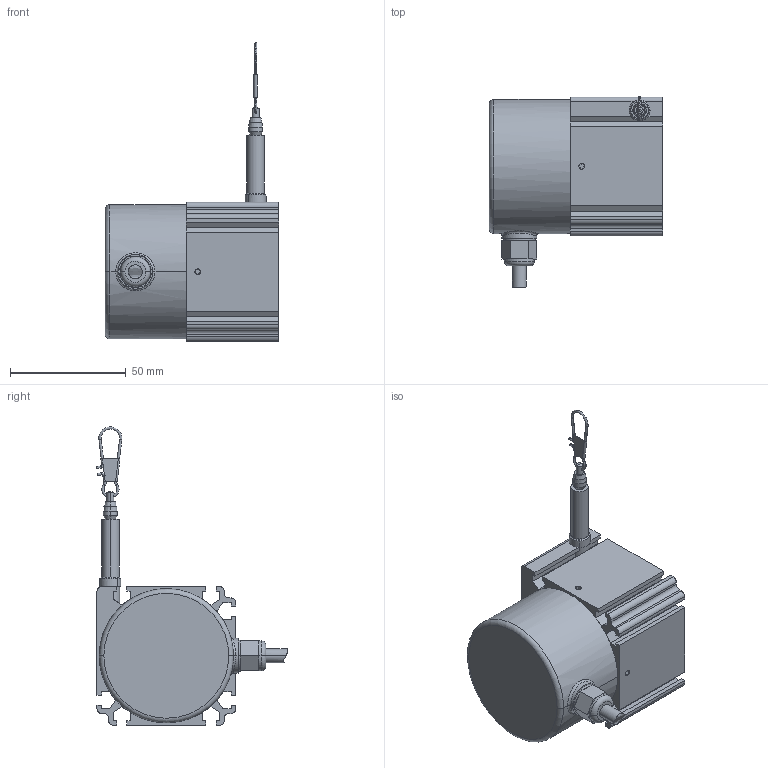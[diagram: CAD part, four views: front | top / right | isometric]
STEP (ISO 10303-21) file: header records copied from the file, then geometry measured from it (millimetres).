
FILE_DESCRIPTION((''),'2;1');
FILE_NAME('','2007-03-21T',(''),(''),'PRO/ENGINEER BY PARAMETRIC TECHNOLOGY CORPORATION, 2003250','PRO/ENGINEER BY PARAMETRIC TECHNOLOGY CORPORATION, 2003250','');
FILE_SCHEMA(('CONFIG_CONTROL_DESIGN'));
Length unit declared in the file: millimetre
Bounding box: 75 x 82.72 x 128.99 mm (x, y, z)
Volume: 147404.2 mm3; surface area: 42666.4 mm2
Topology: 1 solids, 2 shells, 290 faces, 741 edges, 464 vertices
Faces by surface type: plane 169, cylinder 72, cone 24, torus 20, bspline 2, sphere 2, extrusion 1
Entity records: 9275 total; most frequent: CARTESIAN_POINT 2106, DIRECTION 1534, ORIENTED_EDGE 1466, EDGE_CURVE 733, AXIS2_PLACEMENT_3D 544, VERTEX_POINT 464, VECTOR 446, LINE 445
